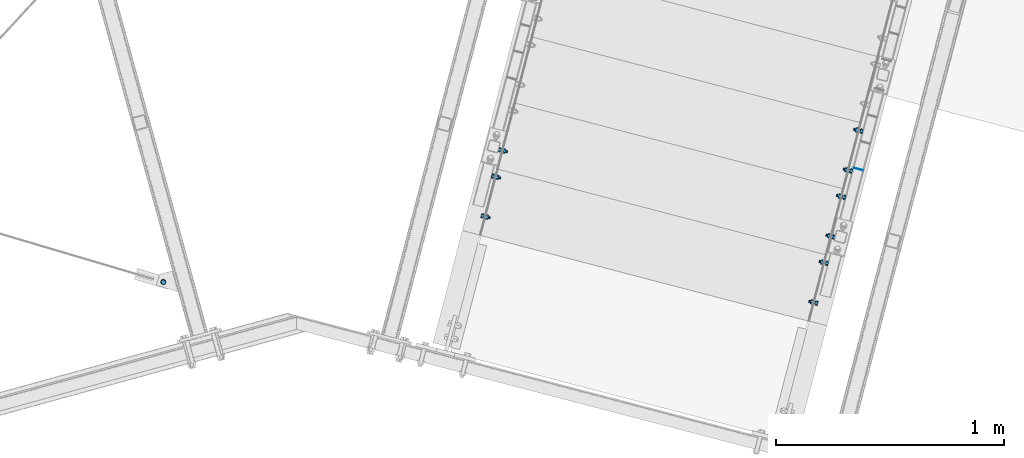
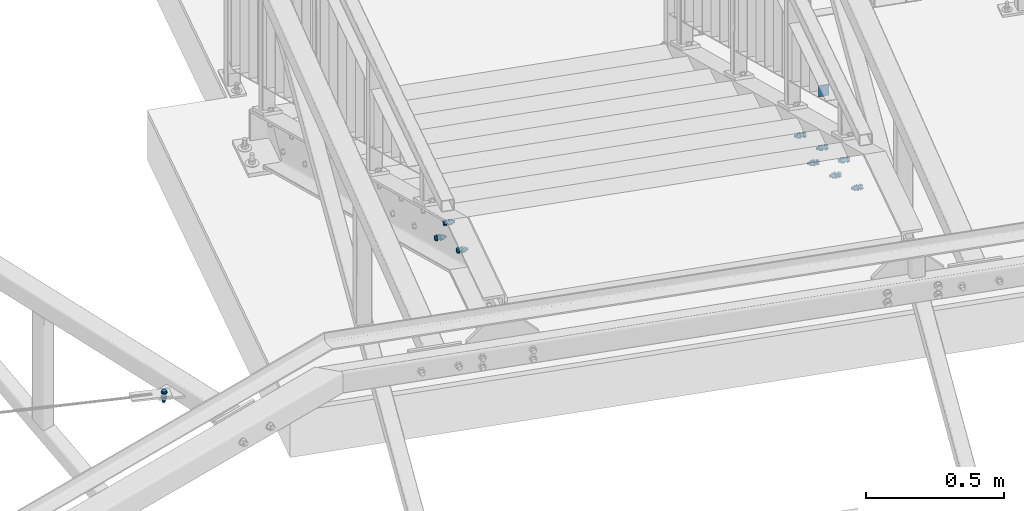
# One storey, part 159 of 169: 10 mechanical fasteners, 1 discrete accessory, 5 elements without a shape of their own.
"""IFC2X3 building model written with IfcOpenShell, lengths in millimetres."""

from ifc_helpers import new_model, si_unit, frame, frame_2d, origin_with_axes, origin_2d_with_axis, place, context, subcontext, project, spatial, polyline, circle_curve, parameter, trimmed, segment, composite_curve, circle, outline, extrude, clip, halfspace, source, transform, mapped, material, type_object, element, aggregate, save


model = new_model("IFC2X3")

# Units and contexts
model_context = context("Model", 3, precision=1e-05, world=origin_with_axes())
body_context = subcontext(model_context, "Body", "Model", "MODEL_VIEW")
ifc_project = project(units=[si_unit("LENGTHUNIT", "METRE", prefix="MILLI"), si_unit("AREAUNIT", "SQUARE_METRE"), si_unit("VOLUMEUNIT", "CUBIC_METRE"), si_unit("MASSUNIT", "GRAM", prefix="KILO"), si_unit("TIMEUNIT", "SECOND"), si_unit("PLANEANGLEUNIT", "RADIAN"), si_unit("SOLIDANGLEUNIT", "STERADIAN"), si_unit("THERMODYNAMICTEMPERATUREUNIT", "DEGREE_CELSIUS"), si_unit("LUMINOUSINTENSITYUNIT", "LUMEN")], contexts=[model_context])

# Site, building, storey
site_placement = place(None, origin_with_axes())
site = spatial("IfcSite", under=ifc_project, at=site_placement, Name="Undefined", CompositionType="ELEMENT")
building_placement = place(site_placement, origin_with_axes())
building = spatial("IfcBuilding", under=site, at=building_placement, Name="Undefined", CompositionType="ELEMENT")
storey_placement = place(building_placement, origin_with_axes())
storey = spatial("IfcBuildingStorey", under=building, at=storey_placement, Name="Undefined", CompositionType="ELEMENT", Elevation=0.0)

# Assembly, discrete accessory
assembly_1_placement = place(storey_placement, origin_with_axes())
assembly_1 = element("IfcElementAssembly", 1, at=assembly_1_placement, inside=storey, Name="Steel Assembly", AssemblyPlace="NOTDEFINED", PredefinedType="RIGID_FRAME")
ifc_material_1 = material(Name="STEEL/S235")
discrete_accessory_type_1 = type_object("IfcDiscreteAccessoryType", Name="PORĘCZ")
discrete_accessory_placement = place(assembly_1_placement, frame((-9157.10543504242, 18934.9328523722, 13865.5637327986), z_axis=(-0.252628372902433, -0.967563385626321, 0.0), x_axis=(-2.54700353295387e-10, 0.0, -1.0)))
discrete_accessory = element("IfcDiscreteAccessory", 2, at=discrete_accessory_placement, type_object=discrete_accessory_type_1, material=ifc_material_1, Name="PORĘCZ", ObjectType="BL40*3", context=body_context, shape_type="Clipping", body=[
    clip(clip(extrude(outline(polyline([(46.3262382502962, -19.9999999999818), (-3.35387496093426, -19.9999999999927), (-3.35387497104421, 19.9999999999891), (46.3262382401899, 20.0), (46.3262382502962, -19.9999999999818)])), frame((1.81898940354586e-12, -1.77635442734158e-15, -1.50000000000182), z_axis=(0.0, 0.0, 1.0), x_axis=(1.0, 0.0, 0.0)), (0.0, 0.0, 1.0), 3.0), halfspace(frame((-3.3538752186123, 999.999999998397, 1.44846126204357e-08), z_axis=(1.0, 0.0, 0.0), x_axis=(-2.54700353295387e-10, 0.0, -1.0)), True)), halfspace(frame((46.6557223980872, 999.99999999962, -0.66552116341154), z_axis=(-0.89618489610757, 8.07050632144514e-16, -0.443680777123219), x_axis=(-0.443680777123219, 6.25441316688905e-11, 0.89618489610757)), True)),
])
aggregate(assembly_1, [discrete_accessory])

# Assembly, mechanical fasteners
assembly_2_placement = place(storey_placement, origin_with_axes())
assembly_2 = element("IfcElementAssembly", 3, at=assembly_2_placement, inside=storey, Name="Steel Assembly", AssemblyPlace="NOTDEFINED", PredefinedType="RIGID_FRAME")
ifc_material_2 = material(Name="Undefined")
discrete_accessory_type_2 = type_object("IfcDiscreteAccessoryType", Name="Bolt assembly")
shared_shape_1 = source(origin_with_axes(), body_context, "Body", "SweptSolid", [
    extrude(circle(Radius=7.5, at=origin_2d_with_axis()), frame((0.0, -7.40000057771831, 0.0), z_axis=(0.0, 1.0, 0.0), x_axis=(1.0, 0.0, 0.0)), (0.0, 0.0, 1.0), 7.5),
    extrude(outline(composite_curve([segment(polyline([(-10.0, 7.5), (10.0, 7.5)]), True, "CONTINUOUS"), segment(trimmed(circle_curve(frame_2d((10.0, 0.0), x_axis=(0.0, 1.0)), 7.5), [parameter(0.0)], [parameter(3.14159265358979)], False, "PARAMETER"), True, "CONTINUOUS"), segment(polyline([(10.0, -7.5), (-10.0, -7.5)]), True, "CONTINUOUS"), segment(trimmed(circle_curve(frame_2d((-10.0, 0.0), x_axis=(0.0, -1.0)), 7.5), [parameter(0.0)], [parameter(3.14159265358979)], False, "PARAMETER"), True, "DISCONTINUOUS")], self_intersect=False)), frame((0.0, -0.100000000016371, 0.0), z_axis=(0.0, 1.0, 0.0), x_axis=(1.0, 0.0, 0.0)), (0.0, 0.0, 1.0), 3.1),
    extrude(outline(polyline([(10.39230484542, 0.0), (5.19615242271, 9.00000000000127), (-5.19615242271, 9.00000000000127), (-10.39230484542, 0.0), (-5.19615242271, -9.00000000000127), (5.19615242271, -9.00000000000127), (10.39230484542, 0.0)])), frame((0.0, -17.5000005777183, 0.0), z_axis=(0.0, 1.0, 0.0), x_axis=(1.0, 0.0, 0.0)), (0.0, 0.0, 1.0), 7.5),
    extrude(circle(Radius=6.0, at=origin_2d_with_axis()), frame((0.0, -10.0, 0.0), z_axis=(0.0, 1.0, 0.0), x_axis=(1.0, 0.0, 0.0)), (0.0, 0.0, 1.0), 35.0),
    extrude(circle(Radius=12.0, at=origin_2d_with_axis()), frame((0.0, -10.0, 0.0), z_axis=(0.0, 1.0, 0.0), x_axis=(1.0, 0.0, 0.0)), (0.0, 0.0, 1.0), 2.5),
    extrude(circle(Radius=12.0, at=origin_2d_with_axis()), frame((0.0, 2.99999999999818, 0.0), z_axis=(0.0, 1.0, 0.0), x_axis=(1.0, 0.0, 0.0)), (0.0, 0.0, 1.0), 2.5),
    extrude(outline(polyline([(10.96965511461, 0.0), (5.484827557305, 9.50000000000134), (-5.484827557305, 9.50000000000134), (-10.96965511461, 0.0), (-5.484827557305, -9.50000000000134), (5.484827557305, -9.50000000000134), (10.96965511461, 0.0)])), frame((0.0, 5.50000000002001, 0.0), z_axis=(0.0, 1.0, 0.0), x_axis=(1.0, 0.0, 0.0)), (0.0, 0.0, 1.0), 10.0),
])
mechanical_fastener_1_placement = place(assembly_2_placement, frame((-9296.64692532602, 18558.8261038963, 13853.0060245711), z_axis=(-2.54700353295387e-10, 0.0, -1.0), x_axis=(-0.252628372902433, -0.967563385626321, 0.0)))
mechanical_fastener_1 = element("IfcMechanicalFastener", 4, at=mechanical_fastener_1_placement, type_object=discrete_accessory_type_2, material=ifc_material_2, Name="Bolt assembly", NominalDiameter=12.0, NominalLength=35.0, context=body_context, shape_type="MappedRepresentation", body=[
    mapped(shared_shape_1, transform((215.000000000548, 9.82254277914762e-11, 15.0))),
])
shared_shape_2 = source(origin_with_axes(), body_context, "Body", "SweptSolid", [
    extrude(circle(Radius=7.5, at=origin_2d_with_axis()), frame((0.0, -7.40000057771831, 0.0), z_axis=(0.0, 1.0, 0.0), x_axis=(1.0, 0.0, 0.0)), (0.0, 0.0, 1.0), 7.5),
    extrude(circle(Radius=7.5, at=origin_2d_with_axis()), frame((0.0, -0.100000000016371, 0.0), z_axis=(0.0, 1.0, 0.0), x_axis=(1.0, 0.0, 0.0)), (0.0, 0.0, 1.0), 3.1),
    extrude(outline(polyline([(10.39230484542, 0.0), (5.19615242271, 9.00000000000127), (-5.19615242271, 9.00000000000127), (-10.39230484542, 0.0), (-5.19615242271, -9.00000000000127), (5.19615242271, -9.00000000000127), (10.39230484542, 0.0)])), frame((0.0, -17.5000005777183, 0.0), z_axis=(0.0, 1.0, 0.0), x_axis=(1.0, 0.0, 0.0)), (0.0, 0.0, 1.0), 7.5),
    extrude(circle(Radius=6.0, at=origin_2d_with_axis()), frame((0.0, -10.0, 0.0), z_axis=(0.0, 1.0, 0.0), x_axis=(1.0, 0.0, 0.0)), (0.0, 0.0, 1.0), 35.0),
    extrude(circle(Radius=12.0, at=origin_2d_with_axis()), frame((0.0, -10.0, 0.0), z_axis=(0.0, 1.0, 0.0), x_axis=(1.0, 0.0, 0.0)), (0.0, 0.0, 1.0), 2.5),
    extrude(circle(Radius=12.0, at=origin_2d_with_axis()), frame((0.0, 2.99999999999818, 0.0), z_axis=(0.0, 1.0, 0.0), x_axis=(1.0, 0.0, 0.0)), (0.0, 0.0, 1.0), 2.5),
    extrude(outline(polyline([(10.96965511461, 0.0), (5.484827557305, 9.50000000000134), (-5.484827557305, 9.50000000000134), (-10.96965511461, 0.0), (-5.484827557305, -9.50000000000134), (5.484827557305, -9.50000000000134), (10.96965511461, 0.0)])), frame((0.0, 5.50000000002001, 0.0), z_axis=(0.0, 1.0, 0.0), x_axis=(1.0, 0.0, 0.0)), (0.0, 0.0, 1.0), 10.0),
])
mechanical_fastener_2_placement = place(assembly_2_placement, frame((-9296.64692532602, 18558.8261038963, 13853.0060245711), z_axis=(-2.54700353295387e-10, 0.0, -1.0), x_axis=(-0.252628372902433, -0.967563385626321, 0.0)))
mechanical_fastener_2 = element("IfcMechanicalFastener", 5, at=mechanical_fastener_2_placement, type_object=discrete_accessory_type_2, material=ifc_material_2, Name="Bolt assembly", NominalDiameter=12.0, NominalLength=35.0, context=body_context, shape_type="MappedRepresentation", body=[
    mapped(shared_shape_2, transform((35.0000000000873, 1.45519152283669e-11, 15.0))),
])
mechanical_fastener_3_placement = place(assembly_2_placement, frame((-10814.1048804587, 18644.9733635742, 13853.0060245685), z_axis=(-2.54700353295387e-10, 0.0, -1.0), x_axis=(0.252628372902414, 0.967563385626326, 0.0)))
mechanical_fastener_3 = element("IfcMechanicalFastener", 6, at=mechanical_fastener_3_placement, type_object=discrete_accessory_type_2, material=ifc_material_2, Name="Bolt assembly", NominalDiameter=12.0, NominalLength=35.0, context=body_context, shape_type="MappedRepresentation", body=[
    mapped(shared_shape_2, transform((265.000000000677, 1.20053300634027e-10, 15.0))),
])

# Assembly, mechanical fastener
assembly_3_placement = place(storey_placement, origin_with_axes())
assembly_3 = element("IfcElementAssembly", 7, at=assembly_3_placement, inside=storey, Name="Steel Assembly", AssemblyPlace="NOTDEFINED", PredefinedType="RIGID_FRAME")
mechanical_fastener_4_placement = place(assembly_3_placement, frame((-9221.0957201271, 18848.1862380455, 13705.5944414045), z_axis=(-2.54700353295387e-10, 0.0, -1.0), x_axis=(-0.252628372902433, -0.967563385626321, 0.0)))
mechanical_fastener_4 = element("IfcMechanicalFastener", 8, at=mechanical_fastener_4_placement, type_object=discrete_accessory_type_2, material=ifc_material_2, Name="Bolt assembly", NominalDiameter=12.0, NominalLength=35.0, context=body_context, shape_type="MappedRepresentation", body=[
    mapped(shared_shape_2, transform((35.0000000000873, 1.45519152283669e-11, 15.0))),
])

assembly_4_placement = place(storey_placement, origin_with_axes())
assembly_4 = element("IfcElementAssembly", 9, at=assembly_4_placement, inside=storey, Name="Steel Assembly", AssemblyPlace="NOTDEFINED", PredefinedType="RIGID_FRAME")
mechanical_fastener_5_placement = place(assembly_4_placement, frame((-9145.54451492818, 19137.5463721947, 13558.1828582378), z_axis=(-2.54700353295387e-10, 0.0, -1.0), x_axis=(-0.252628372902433, -0.967563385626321, 0.0)))
mechanical_fastener_5 = element("IfcMechanicalFastener", 10, at=mechanical_fastener_5_placement, type_object=discrete_accessory_type_2, material=ifc_material_2, Name="Bolt assembly", NominalDiameter=12.0, NominalLength=35.0, context=body_context, shape_type="MappedRepresentation", body=[
    mapped(shared_shape_2, transform((35.0000000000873, 1.45519152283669e-11, 15.0))),
])

# Mechanical fastener
shared_shape_3 = source(origin_with_axes(), body_context, "Body", "SweptSolid", [
    extrude(circle(Radius=7.5, at=origin_2d_with_axis()), frame((0.0, -7.40000057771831, 0.0), z_axis=(0.0, 1.0, 0.0), x_axis=(1.0, 0.0, 0.0)), (0.0, 0.0, 1.0), 7.5),
    extrude(outline(composite_curve([segment(polyline([(-10.0, 7.5), (10.0, 7.5)]), True, "CONTINUOUS"), segment(trimmed(circle_curve(frame_2d((10.0, 0.0), x_axis=(0.0, 1.0)), 7.5), [parameter(0.0)], [parameter(3.14159265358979)], False, "PARAMETER"), True, "CONTINUOUS"), segment(polyline([(10.0, -7.5), (-10.0, -7.5)]), True, "CONTINUOUS"), segment(trimmed(circle_curve(frame_2d((-10.0, 0.0), x_axis=(0.0, -1.0)), 7.5), [parameter(0.0)], [parameter(3.14159265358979)], False, "PARAMETER"), True, "DISCONTINUOUS")], self_intersect=False)), frame((0.0, -0.100000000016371, 0.0), z_axis=(0.0, 1.0, 0.0), x_axis=(1.0, 0.0, 0.0)), (0.0, 0.0, 1.0), 3.1),
    extrude(outline(polyline([(10.39230484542, 0.0), (5.19615242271, 9.00000000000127), (-5.19615242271, 9.00000000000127), (-10.39230484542, 0.0), (-5.19615242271, -9.00000000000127), (5.19615242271, -9.00000000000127), (10.39230484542, 0.0)])), frame((0.0, -17.5000005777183, 0.0), z_axis=(0.0, 1.0, 0.0), x_axis=(1.0, 0.0, 0.0)), (0.0, 0.0, 1.0), 7.5),
    extrude(circle(Radius=6.0, at=origin_2d_with_axis()), frame((0.0, -10.0, 0.0), z_axis=(0.0, 1.0, 0.0), x_axis=(1.0, 0.0, 0.0)), (0.0, 0.0, 1.0), 35.0),
    extrude(circle(Radius=12.0, at=origin_2d_with_axis()), frame((0.0, -10.0, 0.0), z_axis=(0.0, 1.0, 0.0), x_axis=(1.0, 0.0, 0.0)), (0.0, 0.0, 1.0), 2.5),
    extrude(circle(Radius=12.0, at=origin_2d_with_axis()), frame((0.0, 2.99999999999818, 0.0), z_axis=(0.0, 1.0, 0.0), x_axis=(1.0, 0.0, 0.0)), (0.0, 0.0, 1.0), 2.5),
    extrude(outline(polyline([(10.96965511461, 0.0), (5.484827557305, 9.50000000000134), (-5.484827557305, 9.50000000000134), (-10.96965511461, 0.0), (-5.484827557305, -9.50000000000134), (5.484827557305, -9.50000000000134), (10.96965511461, 0.0)])), frame((0.0, 5.50000000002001, 0.0), z_axis=(0.0, 1.0, 0.0), x_axis=(1.0, 0.0, 0.0)), (0.0, 0.0, 1.0), 10.0),
])
mechanical_fastener_6_placement = place(assembly_2_placement, frame((-10814.1048804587, 18644.9733635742, 13853.0060245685), z_axis=(-2.54700353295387e-10, 0.0, -1.0), x_axis=(0.252628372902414, 0.967563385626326, 0.0)))
mechanical_fastener_6 = element("IfcMechanicalFastener", 11, at=mechanical_fastener_6_placement, type_object=discrete_accessory_type_2, material=ifc_material_2, Name="Bolt assembly", NominalDiameter=12.0, NominalLength=35.0, context=body_context, shape_type="MappedRepresentation", body=[
    mapped(shared_shape_3, transform((85.0000000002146, 3.63797880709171e-11, 15.0))),
])

aggregate(assembly_2, [mechanical_fastener_1, mechanical_fastener_2, mechanical_fastener_6, mechanical_fastener_3])

shared_shape_4 = source(origin_with_axes(), body_context, "Body", "SweptSolid", [
    extrude(circle(Radius=7.5, at=origin_2d_with_axis()), frame((0.0, -7.40000057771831, 0.0), z_axis=(0.0, 1.0, 0.0), x_axis=(1.0, 0.0, 0.0)), (0.0, 0.0, 1.0), 7.5),
    extrude(outline(composite_curve([segment(polyline([(-10.0, 7.5), (10.0, 7.5)]), True, "CONTINUOUS"), segment(trimmed(circle_curve(frame_2d((10.0, 0.0), x_axis=(0.0, 1.0)), 7.5), [parameter(0.0)], [parameter(3.14159265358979)], False, "PARAMETER"), True, "CONTINUOUS"), segment(polyline([(10.0, -7.5), (-10.0, -7.5)]), True, "CONTINUOUS"), segment(trimmed(circle_curve(frame_2d((-10.0, 0.0), x_axis=(0.0, -1.0)), 7.5), [parameter(0.0)], [parameter(3.14159265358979)], False, "PARAMETER"), True, "DISCONTINUOUS")], self_intersect=False)), frame((0.0, -0.100000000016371, 0.0), z_axis=(0.0, 1.0, 0.0), x_axis=(1.0, 0.0, 0.0)), (0.0, 0.0, 1.0), 3.1),
    extrude(outline(polyline([(10.39230484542, 0.0), (5.19615242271, 9.00000000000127), (-5.19615242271, 9.00000000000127), (-10.39230484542, 0.0), (-5.19615242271, -9.00000000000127), (5.19615242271, -9.00000000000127), (10.39230484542, 0.0)])), frame((0.0, -17.5000005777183, 0.0), z_axis=(0.0, 1.0, 0.0), x_axis=(1.0, 0.0, 0.0)), (0.0, 0.0, 1.0), 7.5),
    extrude(circle(Radius=6.0, at=origin_2d_with_axis()), frame((0.0, -10.0, 0.0), z_axis=(0.0, 1.0, 0.0), x_axis=(1.0, 0.0, 0.0)), (0.0, 0.0, 1.0), 35.0),
    extrude(circle(Radius=12.0, at=origin_2d_with_axis()), frame((0.0, -10.0, 0.0), z_axis=(0.0, 1.0, 0.0), x_axis=(1.0, 0.0, 0.0)), (0.0, 0.0, 1.0), 2.5),
    extrude(circle(Radius=12.0, at=origin_2d_with_axis()), frame((0.0, 2.99999999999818, 0.0), z_axis=(0.0, 1.0, 0.0), x_axis=(1.0, 0.0, 0.0)), (0.0, 0.0, 1.0), 2.5),
    extrude(outline(polyline([(10.96965511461, 0.0), (5.484827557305, 9.50000000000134), (-5.484827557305, 9.50000000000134), (-10.96965511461, 0.0), (-5.484827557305, -9.50000000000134), (5.484827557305, -9.50000000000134), (10.96965511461, 0.0)])), frame((0.0, 5.50000000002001, 0.0), z_axis=(0.0, 1.0, 0.0), x_axis=(1.0, 0.0, 0.0)), (0.0, 0.0, 1.0), 10.0),
])
mechanical_fastener_7_placement = place(assembly_3_placement, frame((-9221.0957201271, 18848.1862380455, 13705.5944414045), z_axis=(-2.54700353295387e-10, 0.0, -1.0), x_axis=(-0.252628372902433, -0.967563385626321, 0.0)))
mechanical_fastener_7 = element("IfcMechanicalFastener", 12, at=mechanical_fastener_7_placement, type_object=discrete_accessory_type_2, material=ifc_material_2, Name="Bolt assembly", NominalDiameter=12.0, NominalLength=35.0, context=body_context, shape_type="MappedRepresentation", body=[
    mapped(shared_shape_4, transform((215.000000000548, 9.82254277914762e-11, 15.0))),
])

shared_shape_5 = source(origin_with_axes(), body_context, "Body", "SweptSolid", [
    extrude(circle(Radius=7.5, at=origin_2d_with_axis()), frame((0.0, -7.40000057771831, 0.0), z_axis=(0.0, 1.0, 0.0), x_axis=(1.0, 0.0, 0.0)), (0.0, 0.0, 1.0), 7.5),
    extrude(outline(composite_curve([segment(polyline([(-10.0, 7.5), (10.0, 7.5)]), True, "CONTINUOUS"), segment(trimmed(circle_curve(frame_2d((10.0, 0.0), x_axis=(0.0, 1.0)), 7.5), [parameter(0.0)], [parameter(3.14159265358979)], False, "PARAMETER"), True, "CONTINUOUS"), segment(polyline([(10.0, -7.5), (-10.0, -7.5)]), True, "CONTINUOUS"), segment(trimmed(circle_curve(frame_2d((-10.0, 0.0), x_axis=(0.0, -1.0)), 7.5), [parameter(0.0)], [parameter(3.14159265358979)], False, "PARAMETER"), True, "DISCONTINUOUS")], self_intersect=False)), frame((0.0, -0.100000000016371, 0.0), z_axis=(0.0, 1.0, 0.0), x_axis=(1.0, 0.0, 0.0)), (0.0, 0.0, 1.0), 3.1),
    extrude(outline(polyline([(10.39230484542, 0.0), (5.19615242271, 9.00000000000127), (-5.19615242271, 9.00000000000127), (-10.39230484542, 0.0), (-5.19615242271, -9.00000000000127), (5.19615242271, -9.00000000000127), (10.39230484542, 0.0)])), frame((0.0, -17.5000005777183, 0.0), z_axis=(0.0, 1.0, 0.0), x_axis=(1.0, 0.0, 0.0)), (0.0, 0.0, 1.0), 7.5),
    extrude(circle(Radius=6.0, at=origin_2d_with_axis()), frame((0.0, -10.0, 0.0), z_axis=(0.0, 1.0, 0.0), x_axis=(1.0, 0.0, 0.0)), (0.0, 0.0, 1.0), 35.0),
    extrude(circle(Radius=12.0, at=origin_2d_with_axis()), frame((0.0, -10.0, 0.0), z_axis=(0.0, 1.0, 0.0), x_axis=(1.0, 0.0, 0.0)), (0.0, 0.0, 1.0), 2.5),
    extrude(circle(Radius=12.0, at=origin_2d_with_axis()), frame((0.0, 2.99999999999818, 0.0), z_axis=(0.0, 1.0, 0.0), x_axis=(1.0, 0.0, 0.0)), (0.0, 0.0, 1.0), 2.5),
    extrude(outline(polyline([(10.96965511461, 0.0), (5.484827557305, 9.50000000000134), (-5.484827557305, 9.50000000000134), (-10.96965511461, 0.0), (-5.484827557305, -9.50000000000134), (5.484827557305, -9.50000000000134), (10.96965511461, 0.0)])), frame((0.0, 5.50000000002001, 0.0), z_axis=(0.0, 1.0, 0.0), x_axis=(1.0, 0.0, 0.0)), (0.0, 0.0, 1.0), 10.0),
])
mechanical_fastener_8_placement = place(assembly_3_placement, frame((-10738.5536752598, 18934.3334977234, 13705.5944414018), z_axis=(-2.54700353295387e-10, 0.0, -1.0), x_axis=(0.252628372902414, 0.967563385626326, 0.0)))
mechanical_fastener_8 = element("IfcMechanicalFastener", 13, at=mechanical_fastener_8_placement, type_object=discrete_accessory_type_2, material=ifc_material_2, Name="Bolt assembly", NominalDiameter=12.0, NominalLength=35.0, context=body_context, shape_type="MappedRepresentation", body=[
    mapped(shared_shape_5, transform((85.0000000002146, 3.63797880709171e-11, 15.0))),
])

aggregate(assembly_3, [mechanical_fastener_7, mechanical_fastener_4, mechanical_fastener_8])

shared_shape_6 = source(origin_with_axes(), body_context, "Body", "SweptSolid", [
    extrude(circle(Radius=7.5, at=origin_2d_with_axis()), frame((0.0, -7.40000057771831, 0.0), z_axis=(0.0, 1.0, 0.0), x_axis=(1.0, 0.0, 0.0)), (0.0, 0.0, 1.0), 7.5),
    extrude(outline(composite_curve([segment(polyline([(-10.0, 7.5), (10.0, 7.5)]), True, "CONTINUOUS"), segment(trimmed(circle_curve(frame_2d((10.0, 0.0), x_axis=(0.0, 1.0)), 7.5), [parameter(0.0)], [parameter(3.14159265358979)], False, "PARAMETER"), True, "CONTINUOUS"), segment(polyline([(10.0, -7.5), (-10.0, -7.5)]), True, "CONTINUOUS"), segment(trimmed(circle_curve(frame_2d((-10.0, 0.0), x_axis=(0.0, -1.0)), 7.5), [parameter(0.0)], [parameter(3.14159265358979)], False, "PARAMETER"), True, "DISCONTINUOUS")], self_intersect=False)), frame((0.0, -0.100000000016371, 0.0), z_axis=(0.0, 1.0, 0.0), x_axis=(1.0, 0.0, 0.0)), (0.0, 0.0, 1.0), 3.1),
    extrude(outline(polyline([(10.39230484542, 0.0), (5.19615242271, 9.00000000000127), (-5.19615242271, 9.00000000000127), (-10.39230484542, 0.0), (-5.19615242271, -9.00000000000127), (5.19615242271, -9.00000000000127), (10.39230484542, 0.0)])), frame((0.0, -17.5000005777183, 0.0), z_axis=(0.0, 1.0, 0.0), x_axis=(1.0, 0.0, 0.0)), (0.0, 0.0, 1.0), 7.5),
    extrude(circle(Radius=6.0, at=origin_2d_with_axis()), frame((0.0, -10.0, 0.0), z_axis=(0.0, 1.0, 0.0), x_axis=(1.0, 0.0, 0.0)), (0.0, 0.0, 1.0), 35.0),
    extrude(circle(Radius=12.0, at=origin_2d_with_axis()), frame((0.0, -10.0, 0.0), z_axis=(0.0, 1.0, 0.0), x_axis=(1.0, 0.0, 0.0)), (0.0, 0.0, 1.0), 2.5),
    extrude(circle(Radius=12.0, at=origin_2d_with_axis()), frame((0.0, 2.99999999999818, 0.0), z_axis=(0.0, 1.0, 0.0), x_axis=(1.0, 0.0, 0.0)), (0.0, 0.0, 1.0), 2.5),
    extrude(outline(polyline([(10.96965511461, 0.0), (5.484827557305, 9.50000000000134), (-5.484827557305, 9.50000000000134), (-10.96965511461, 0.0), (-5.484827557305, -9.50000000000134), (5.484827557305, -9.50000000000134), (10.96965511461, 0.0)])), frame((0.0, 5.50000000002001, 0.0), z_axis=(0.0, 1.0, 0.0), x_axis=(1.0, 0.0, 0.0)), (0.0, 0.0, 1.0), 10.0),
])
mechanical_fastener_9_placement = place(assembly_4_placement, frame((-9145.54451492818, 19137.5463721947, 13558.1828582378), z_axis=(-2.54700353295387e-10, 0.0, -1.0), x_axis=(-0.252628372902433, -0.967563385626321, 0.0)))
mechanical_fastener_9 = element("IfcMechanicalFastener", 14, at=mechanical_fastener_9_placement, type_object=discrete_accessory_type_2, material=ifc_material_2, Name="Bolt assembly", NominalDiameter=12.0, NominalLength=35.0, context=body_context, shape_type="MappedRepresentation", body=[
    mapped(shared_shape_6, transform((215.000000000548, 9.82254277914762e-11, 15.0))),
])

aggregate(assembly_4, [mechanical_fastener_9, mechanical_fastener_5])

# Assembly, mechanical fastener
assembly_5_placement = place(storey_placement, origin_with_axes())
assembly_5 = element("IfcElementAssembly", 15, at=assembly_5_placement, inside=storey, Name="Steel Assembly", AssemblyPlace="NOTDEFINED", PredefinedType="RIGID_FRAME")
shared_shape_7 = source(origin_with_axes(), body_context, "Body", "SweptSolid", [
    extrude(circle(Radius=7.5, at=origin_2d_with_axis()), frame((0.0, -4.10000000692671, 0.0), z_axis=(0.0, 1.0, 0.0), x_axis=(1.0, 0.0, 0.0)), (0.0, 0.0, 1.0), 8.1),
    extrude(circle(Radius=7.5, at=origin_2d_with_axis()), frame((0.0, -11.9000000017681, 0.0), z_axis=(0.0, 1.0, 0.0), x_axis=(1.0, 0.0, 0.0)), (0.0, 0.0, 1.0), 8.0),
    extrude(outline(polyline([(10.39230484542, 0.0), (5.19615242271, 9.00000000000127), (-5.19615242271, 9.00000000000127), (-10.39230484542, 0.0), (-5.19615242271, -9.00000000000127), (5.19615242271, -9.00000000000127), (10.39230484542, 0.0)])), frame((0.0, -22.5000000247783, 0.0), z_axis=(0.0, 1.0, 0.0), x_axis=(1.0, 0.0, 0.0)), (0.0, 0.0, 1.0), 7.5),
    extrude(circle(Radius=6.0, at=origin_2d_with_axis()), frame((0.0, -15.0000000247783, 0.0), z_axis=(0.0, 1.0, 0.0), x_axis=(1.0, 0.0, 0.0)), (0.0, 0.0, 1.0), 45.0),
    extrude(circle(Radius=12.0, at=origin_2d_with_axis()), frame((0.0, -15.0000000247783, 0.0), z_axis=(0.0, 1.0, 0.0), x_axis=(1.0, 0.0, 0.0)), (0.0, 0.0, 1.0), 3.0),
    extrude(circle(Radius=12.0, at=origin_2d_with_axis()), frame((0.0, 3.99999999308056, 0.0), z_axis=(0.0, 1.0, 0.0), x_axis=(1.0, 0.0, 0.0)), (0.0, 0.0, 1.0), 3.0),
    extrude(outline(polyline([(10.96965511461, 0.0), (5.484827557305, 9.50000000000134), (-5.484827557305, 9.50000000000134), (-10.96965511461, 0.0), (-5.484827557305, -9.50000000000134), (5.484827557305, -9.50000000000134), (10.96965511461, 0.0)])), frame((0.0, 6.99997856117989, 0.0), z_axis=(0.0, 1.0, 0.0), x_axis=(1.0, 0.0, 0.0)), (0.0, 0.0, 1.0), 10.0),
])
mechanical_fastener_10_placement = place(assembly_5_placement, frame((-12200.6342474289, 18440.8758686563, 13862.2180839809), z_axis=(-0.284694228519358, -0.957680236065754, -0.042400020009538), x_axis=(-0.95852703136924, 0.283777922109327, 0.0263822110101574)))
mechanical_fastener_10 = element("IfcMechanicalFastener", 16, at=mechanical_fastener_10_placement, type_object=discrete_accessory_type_2, material=ifc_material_2, Name="Bolt assembly", NominalDiameter=12.0, NominalLength=45.0, context=body_context, shape_type="MappedRepresentation", body=[
    mapped(shared_shape_7, transform((0.0, 0.0, 0.0))),
])
aggregate(assembly_5, [mechanical_fastener_10])

save(model, "model.ifc")
